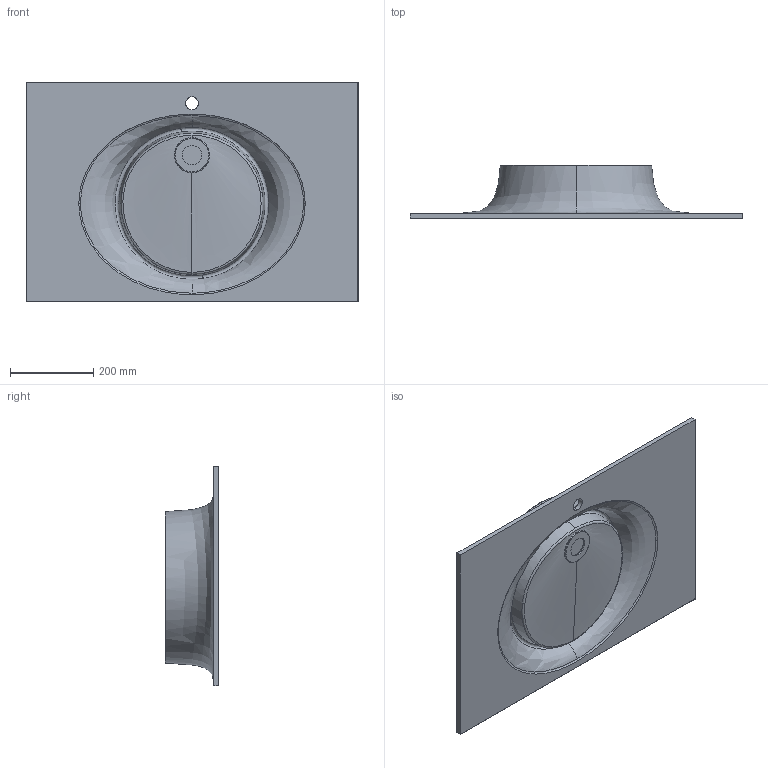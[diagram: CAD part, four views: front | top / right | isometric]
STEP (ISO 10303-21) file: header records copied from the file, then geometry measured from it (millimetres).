
FILE_DESCRIPTION (( 'STEP AP203' ), '1' );
FILE_NAME ('PAA-Wahsbasins-Silkstone-Alba-ON-35-IALBSON35-XX-3D.STEP', '2025-03-08T16:51:28', ( 'PC Lite' ), ( '' ), 'SwSTEP 2.0', 'SolidWorks 2018', '' );
FILE_SCHEMA (( 'CONFIG_CONTROL_DESIGN' ));
Length unit declared in the file: millimetre
Products named in the file (2): PAA-Wahsbasins-Silkstone-Alba-35-IALBS35-XX-3D^PAA-Wahsbasins-Silkstone-Alba-ON-35-IALBSON35-XX-3D; PAA-Wahsbasins-Silkstone-Alba-ON-35-IALBSON35-XX-3D
Assembly tree (1 placements, depth 2):
  PAA-Wahsbasins-Silkstone-Alba-ON-35-IALBSON35-XX-3D
    PAA-Wahsbasins-Silkstone-Alba-35-IALBS35-XX-3D^PAA-Wahsbasins-Silkstone-Alba-ON-35-IALBSON35-XX-3D
Bounding box: 800 x 128.27 x 530 mm (x, y, z)
Volume: 7256527.5 mm3; surface area: 1300899.5 mm2
Topology: 5 solids, 5 shells, 106 faces, 240 edges, 145 vertices
Faces by surface type: bspline 32, cylinder 26, plane 22, torus 16, cone 6, sphere 4
Entity records: 24763 total; most frequent: CARTESIAN_POINT 22412, ORIENTED_EDGE 468, DIRECTION 422, EDGE_CURVE 234, AXIS2_PLACEMENT_3D 188, VERTEX_POINT 145, EDGE_LOOP 117, CIRCLE 110
